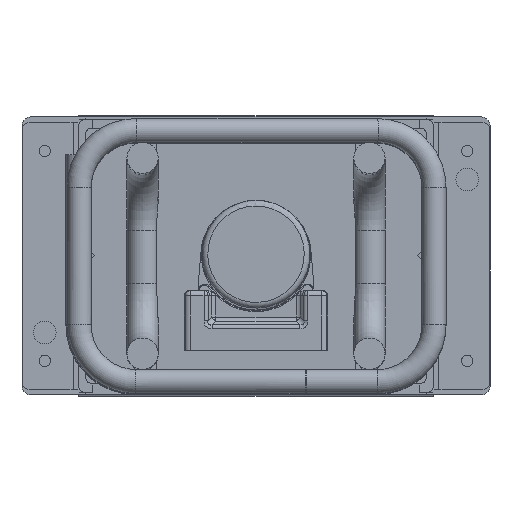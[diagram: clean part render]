
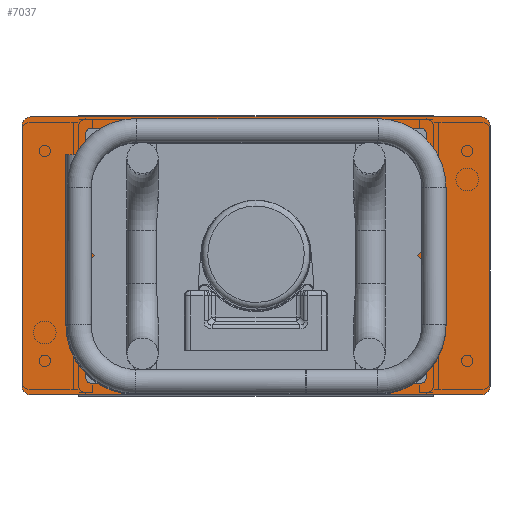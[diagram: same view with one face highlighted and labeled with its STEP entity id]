
A CAD part, top view. The second image highlights one B-rep face of the part: STEP entity #7037.
In plain terms, the highlighted planar face has unit normal (0, 0, 1).
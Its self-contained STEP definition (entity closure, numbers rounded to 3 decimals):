
#58=FACE_BOUND('',#1058,.T.);
#259=PLANE('',#7790);
#664=FACE_OUTER_BOUND('',#1057,.T.);
#1057=EDGE_LOOP('',(#5939,#5940,#5941,#5942,#5943,#5944,#5945,#5946,#5947,
#5948,#5949,#5950));
#1058=EDGE_LOOP('',(#5951));
#1472=LINE('',#11480,#2051);
#1503=LINE('',#11577,#2082);
#1570=LINE('',#11786,#2149);
#1585=LINE('',#11823,#2164);
#1588=LINE('',#11829,#2167);
#1591=LINE('',#11835,#2170);
#1593=LINE('',#11840,#2172);
#1596=LINE('',#11846,#2175);
#2051=VECTOR('',#9280,10.);
#2082=VECTOR('',#9383,10.);
#2149=VECTOR('',#9582,10.);
#2164=VECTOR('',#9617,10.);
#2167=VECTOR('',#9622,10.);
#2170=VECTOR('',#9627,10.);
#2172=VECTOR('',#9631,10.);
#2175=VECTOR('',#9636,10.);
#2596=CIRCLE('',#7753,3.);
#2598=CIRCLE('',#7756,3.);
#2600=CIRCLE('',#7759,3.);
#2602=CIRCLE('',#7762,3.);
#2604=CIRCLE('',#7791,17.6);
#3060=VERTEX_POINT('',#11477);
#3061=VERTEX_POINT('',#11479);
#3090=VERTEX_POINT('',#11574);
#3091=VERTEX_POINT('',#11576);
#3141=VERTEX_POINT('',#11775);
#3143=VERTEX_POINT('',#11782);
#3152=VERTEX_POINT('',#11811);
#3155=VERTEX_POINT('',#11819);
#3157=VERTEX_POINT('',#11826);
#3159=VERTEX_POINT('',#11832);
#3160=VERTEX_POINT('',#11837);
#3162=VERTEX_POINT('',#11843);
#3172=VERTEX_POINT('',#11919);
#3903=EDGE_CURVE('',#3060,#3061,#1472,.T.);
#3952=EDGE_CURVE('',#3090,#3091,#1503,.T.);
#4048=EDGE_CURVE('',#3141,#3143,#1570,.T.);
#4067=EDGE_CURVE('',#3152,#3155,#1585,.T.);
#4070=EDGE_CURVE('',#3141,#3157,#1588,.T.);
#4073=EDGE_CURVE('',#3152,#3159,#1591,.T.);
#4075=EDGE_CURVE('',#3160,#3143,#1593,.T.);
#4078=EDGE_CURVE('',#3162,#3155,#1596,.T.);
#4080=EDGE_CURVE('',#3091,#3162,#2596,.T.);
#4082=EDGE_CURVE('',#3157,#3090,#2598,.T.);
#4084=EDGE_CURVE('',#3159,#3060,#2600,.T.);
#4086=EDGE_CURVE('',#3061,#3160,#2602,.T.);
#4112=EDGE_CURVE('',#3172,#3172,#2604,.T.);
#5939=ORIENTED_EDGE('',*,*,#4086,.F.);
#5940=ORIENTED_EDGE('',*,*,#3903,.F.);
#5941=ORIENTED_EDGE('',*,*,#4084,.F.);
#5942=ORIENTED_EDGE('',*,*,#4073,.F.);
#5943=ORIENTED_EDGE('',*,*,#4067,.T.);
#5944=ORIENTED_EDGE('',*,*,#4078,.F.);
#5945=ORIENTED_EDGE('',*,*,#4080,.F.);
#5946=ORIENTED_EDGE('',*,*,#3952,.F.);
#5947=ORIENTED_EDGE('',*,*,#4082,.F.);
#5948=ORIENTED_EDGE('',*,*,#4070,.F.);
#5949=ORIENTED_EDGE('',*,*,#4048,.T.);
#5950=ORIENTED_EDGE('',*,*,#4075,.F.);
#5951=ORIENTED_EDGE('',*,*,#4112,.T.);
#7037=ADVANCED_FACE('',(#664,#58),#259,.F.);
#7753=AXIS2_PLACEMENT_3D('',#11849,#9640,#9641);
#7756=AXIS2_PLACEMENT_3D('',#11852,#9646,#9647);
#7759=AXIS2_PLACEMENT_3D('',#11855,#9652,#9653);
#7762=AXIS2_PLACEMENT_3D('',#11858,#9658,#9659);
#7790=AXIS2_PLACEMENT_3D('',#11918,#9738,#9739);
#7791=AXIS2_PLACEMENT_3D('',#11920,#9740,#9741);
#9280=DIRECTION('',(0.,1.,0.));
#9383=DIRECTION('',(0.,-1.,0.));
#9582=DIRECTION('',(-1.,0.,0.));
#9617=DIRECTION('',(1.,0.,0.));
#9622=DIRECTION('',(1.,0.,0.));
#9627=DIRECTION('',(-1.,0.,0.));
#9631=DIRECTION('',(1.,0.,0.));
#9636=DIRECTION('',(-1.,0.,0.));
#9640=DIRECTION('center_axis',(0.,0.,
-1.));
#9641=DIRECTION('ref_axis',(0.707,-0.707,0.));
#9646=DIRECTION('center_axis',(0.,0.,
-1.));
#9647=DIRECTION('ref_axis',(0.707,0.707,0.));
#9652=DIRECTION('center_axis',(0.,0.,
-1.));
#9653=DIRECTION('ref_axis',(-0.707,-0.707,0.));
#9658=DIRECTION('center_axis',(0.,0.,
-1.));
#9659=DIRECTION('ref_axis',(-0.707,0.707,0.));
#9738=DIRECTION('center_axis',(0.,0.,
-1.));
#9739=DIRECTION('ref_axis',(0.,1.,0.));
#9740=DIRECTION('center_axis',(0.,0.,
-1.));
#9741=DIRECTION('ref_axis',(1.,0.,0.));
#11477=CARTESIAN_POINT('',(-82.5,-45.999,0.5));
#11479=CARTESIAN_POINT('',(-82.5,45.999,0.5));
#11480=CARTESIAN_POINT('',(-82.5,-48.999,0.5));
#11574=CARTESIAN_POINT('',(82.5,45.999,0.5));
#11576=CARTESIAN_POINT('',(82.5,-45.999,0.5));
#11577=CARTESIAN_POINT('',(82.5,48.999,0.5));
#11775=CARTESIAN_POINT('',(62.5,48.999,0.5));
#11782=CARTESIAN_POINT('',(-62.5,48.999,0.5));
#11786=CARTESIAN_POINT('',(31.25,48.999,0.5));
#11811=CARTESIAN_POINT('',(-62.5,-48.999,0.5));
#11819=CARTESIAN_POINT('',(62.5,-48.999,0.5));
#11823=CARTESIAN_POINT('',(-31.25,-48.999,0.5));
#11826=CARTESIAN_POINT('',(79.5,48.999,0.5));
#11829=CARTESIAN_POINT('',(62.5,48.999,0.5));
#11832=CARTESIAN_POINT('',(-79.5,-48.999,0.5));
#11835=CARTESIAN_POINT('',(-62.5,-48.999,0.5));
#11837=CARTESIAN_POINT('',(-79.5,48.999,0.5));
#11840=CARTESIAN_POINT('',(-62.5,48.999,0.5));
#11843=CARTESIAN_POINT('',(79.5,-48.999,0.5));
#11846=CARTESIAN_POINT('',(62.5,-48.999,0.5));
#11849=CARTESIAN_POINT('Origin',(79.5,-45.999,0.5));
#11852=CARTESIAN_POINT('Origin',(79.5,45.999,0.5));
#11855=CARTESIAN_POINT('Origin',(-79.5,-45.999,0.5));
#11858=CARTESIAN_POINT('Origin',(-79.5,45.999,0.5));
#11918=CARTESIAN_POINT('Origin',(-72.5,0.,
0.5));
#11919=CARTESIAN_POINT('',(-17.6,0.,0.5));
#11920=CARTESIAN_POINT('Origin',(0.,0.,
0.5));
